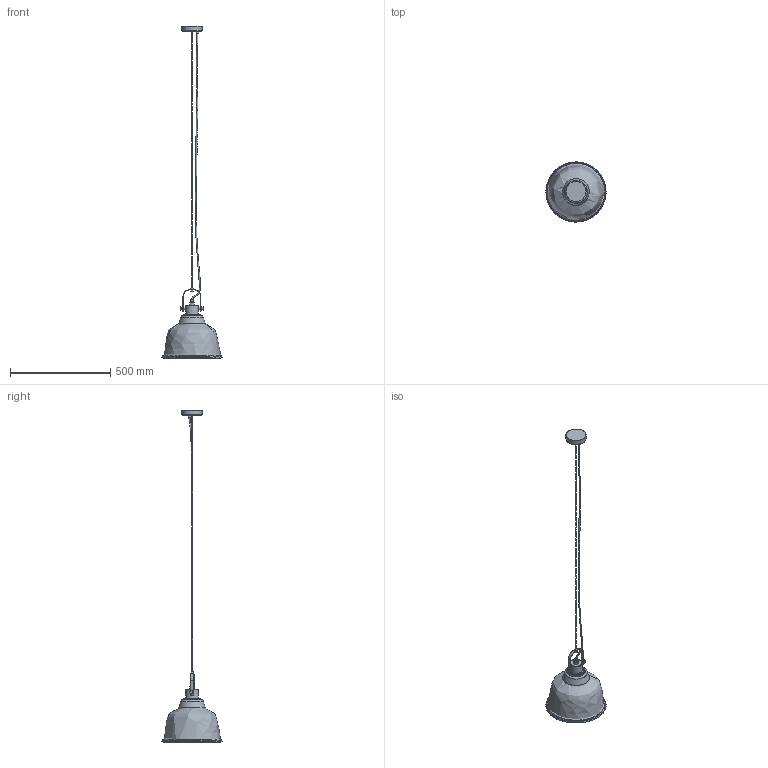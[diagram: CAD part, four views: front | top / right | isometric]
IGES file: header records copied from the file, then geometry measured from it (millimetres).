
Start section: SolidWorks IGES file using NURBS representation for surfaces
Global section: file name: Z:\Modele 3D_WWW\_KOLEKCJE WWW\AMALFI\8381\AMALFI-8381.IGS; native system: SolidWorks 2021; preprocessor: SolidWorks 2021; author: gabriela.tworek; date: 220307.083018; units: millimetre
Bounding box: 299.9 x 300 x 1656.26 mm (x, y, z)
Surface area: 448425.9 mm2 (no closed solid volume)
Topology: 0 solids, 0 shells, 87 faces, 376 edges, 336 vertices
Faces by surface type: bspline 87
